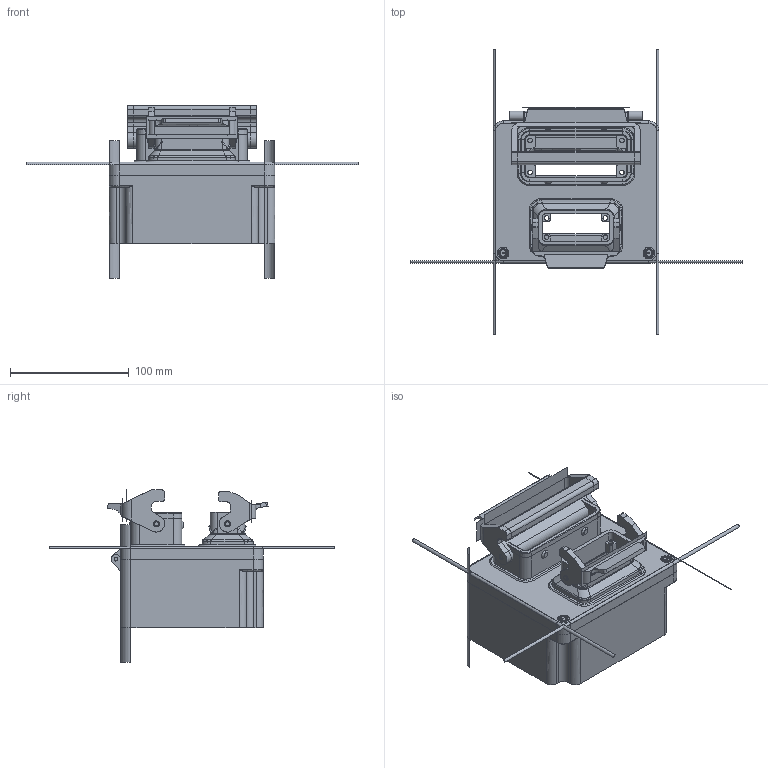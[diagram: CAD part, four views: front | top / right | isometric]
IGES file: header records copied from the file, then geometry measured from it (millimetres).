
Start section: Cimatron Iges convertor
Global section: file name: I:\k-box\cimatron\groesse_3\gr_3_16e_10a-bb.igs; native system: prt/Cimatron V13.10; preprocessor: Cimatron IGES (V5.3) Convertor V5.0.6.0; author: NONE; organization: NONE; date: 060821.192430; units: millimetre
Bounding box: 280.08 x 240.08 x 145.77 mm (x, y, z)
Surface area: 196132.7 mm2 (no closed solid volume)
Topology: 0 solids, 0 shells, 1098 faces, 6932 edges, 7933 vertices
Faces by surface type: bspline 786, extrusion 170, revolution 142
